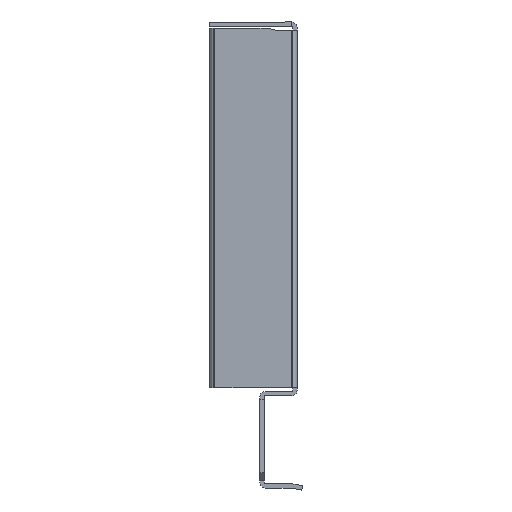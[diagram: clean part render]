
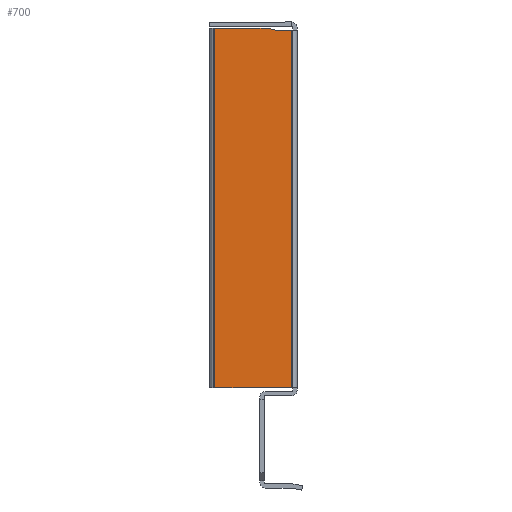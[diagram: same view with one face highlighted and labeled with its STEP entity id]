
A CAD part, left-side view. The second image highlights one B-rep face of the part: STEP entity #700.
In plain terms, the highlighted planar face has unit normal (-1, 0, 0).
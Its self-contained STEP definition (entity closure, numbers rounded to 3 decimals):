
#28 = VERTEX_POINT ( 'NONE', #500 ) ;
#49 = VERTEX_POINT ( 'NONE', #490 ) ;
#117 = DIRECTION ( 'NONE',  ( 0., -1., 0. ) ) ;
#118 = DIRECTION ( 'NONE',  ( -1., 0., 0. ) ) ;
#120 = CARTESIAN_POINT ( 'NONE',  ( -455., -5., 101.385 ) ) ;
#121 = PLANE ( 'NONE',  #1241 ) ;
#140 = VERTEX_POINT ( 'NONE', #462 ) ;
#354 = CARTESIAN_POINT ( 'NONE',  ( -455., -5., 82.5 ) ) ;
#361 = CARTESIAN_POINT ( 'NONE',  ( -455., -5., 17.5 ) ) ;
#398 = CARTESIAN_POINT ( 'NONE',  ( -455., -2., 82.5 ) ) ;
#462 = CARTESIAN_POINT ( 'NONE',  ( -455., -0.507, 82.9 ) ) ;
#490 = CARTESIAN_POINT ( 'NONE',  ( -455., 9., 82.9 ) ) ;
#500 = CARTESIAN_POINT ( 'NONE',  ( -455., 9., 17.5 ) ) ;
#522 = VERTEX_POINT ( 'NONE', #398 ) ;
#558 = VERTEX_POINT ( 'NONE', #361 ) ;
#564 = VERTEX_POINT ( 'NONE', #354 ) ;
#700 = ADVANCED_FACE ( 'NONE', ( #1999 ), #121, .T. ) ;
#746 = EDGE_CURVE ( 'NONE', #49, #28, #2061, .T. ) ;
#747 = EDGE_CURVE ( 'NONE', #522, #564, #2064, .T. ) ;
#748 = EDGE_CURVE ( 'NONE', #140, #522, #2066, .T. ) ;
#749 = EDGE_CURVE ( 'NONE', #564, #558, #2068, .T. ) ;
#976 = EDGE_LOOP ( 'NONE', ( #1833, #1834, #1835, #1836, #1837, #1838 ) ) ;
#1095 = DIRECTION ( 'NONE',  ( 0., 1., 0. ) ) ;
#1097 = CARTESIAN_POINT ( 'NONE',  ( -455., -5., 82.9 ) ) ;
#1125 = DIRECTION ( 'NONE',  ( 0., 1., 0. ) ) ;
#1126 = CARTESIAN_POINT ( 'NONE',  ( -455., -5., 17.5 ) ) ;
#1241 = AXIS2_PLACEMENT_3D ( 'NONE', #120, #118, #117 ) ;
#1412 = EDGE_CURVE ( 'NONE', #558, #28, #2254, .T. ) ;
#1421 = EDGE_CURVE ( 'NONE', #140, #49, #2269, .T. ) ;
#1605 = DIRECTION ( 'NONE',  ( 0., 0., -1. ) ) ;
#1606 = CARTESIAN_POINT ( 'NONE',  ( -455., -5., 101.385 ) ) ;
#1607 = DIRECTION ( 'NONE',  ( 0., -0.966, -0.259 ) ) ;
#1608 = CARTESIAN_POINT ( 'NONE',  ( -455., 0.612, 83.2 ) ) ;
#1611 = DIRECTION ( 'NONE',  ( 0., -1., 0. ) ) ;
#1612 = CARTESIAN_POINT ( 'NONE',  ( -455., -2., 82.5 ) ) ;
#1613 = DIRECTION ( 'NONE',  ( 0., 0., -1. ) ) ;
#1614 = CARTESIAN_POINT ( 'NONE',  ( -455., 9., 101.385 ) ) ;
#1833 = ORIENTED_EDGE ( 'NONE', *, *, #747, .F. ) ;
#1834 = ORIENTED_EDGE ( 'NONE', *, *, #748, .F. ) ;
#1835 = ORIENTED_EDGE ( 'NONE', *, *, #1421, .T. ) ;
#1836 = ORIENTED_EDGE ( 'NONE', *, *, #746, .T. ) ;
#1837 = ORIENTED_EDGE ( 'NONE', *, *, #1412, .F. ) ;
#1838 = ORIENTED_EDGE ( 'NONE', *, *, #749, .F. ) ;
#1999 = FACE_OUTER_BOUND ( 'NONE', #976, .T. ) ;
#2061 = LINE ( 'NONE', #1614, #2063 ) ;
#2063 = VECTOR ( 'NONE', #1613, 1000. ) ;
#2064 = LINE ( 'NONE', #1612, #2065 ) ;
#2065 = VECTOR ( 'NONE', #1611, 1000. ) ;
#2066 = LINE ( 'NONE', #1608, #2067 ) ;
#2067 = VECTOR ( 'NONE', #1607, 1000. ) ;
#2068 = LINE ( 'NONE', #1606, #2069 ) ;
#2069 = VECTOR ( 'NONE', #1605, 1000. ) ;
#2254 = LINE ( 'NONE', #1126, #2256 ) ;
#2256 = VECTOR ( 'NONE', #1125, 1000. ) ;
#2269 = LINE ( 'NONE', #1097, #2271 ) ;
#2271 = VECTOR ( 'NONE', #1095, 1000. ) ;
